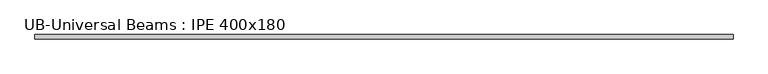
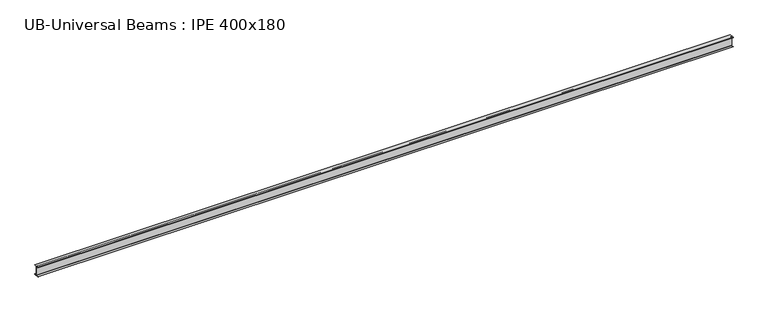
"""IFC4 building model written with IfcOpenShell, lengths in millimetres: beam geometry, UB-Universal Beams : IPE 400x180."""

from ifc_helpers import new_model, si_unit, point, frame, frame_2d, origin, place, context, project, spatial, polyline, circle_curve, trimmed, segment, composite_curve, outline, extrude, source, transform, mapped, element, save


def ub_universal_beams_ipe_400x180_03f0e6ba(model_context):
    return source(origin(), model_context, "Body", "SweptSolid", [
        extrude(outline(composite_curve([segment(polyline([(90.0, -189.8), (90.0, -200.0), (-90.0, -200.0), (-90.0, -189.8), (-11.9, -189.8)]), True, "CONTINUOUS"), segment(trimmed(circle_curve(frame_2d((-11.9, -180.9)), 8.9), [point((-11.9, -189.8))], [point((-3.0, -180.9))], True, "CARTESIAN"), True, "CONTINUOUS"), segment(polyline([(-3.0, -180.9), (-3.0, 180.9)]), True, "CONTINUOUS"), segment(trimmed(circle_curve(frame_2d((-11.9, 180.9)), 8.9), [point((-3.0, 180.9))], [point((-11.9, 189.8))], True, "CARTESIAN"), True, "CONTINUOUS"), segment(polyline([(-11.9, 189.8), (-90.0, 189.8), (-90.0, 200.0), (90.0, 200.0), (90.0, 189.8), (11.9, 189.8)]), True, "CONTINUOUS"), segment(trimmed(circle_curve(frame_2d((11.9, 180.9)), 8.9), [point((11.9, 189.8))], [point((3.0, 180.9))], True, "CARTESIAN"), True, "CONTINUOUS"), segment(polyline([(3.0, 180.9), (3.0, -180.9)]), True, "CONTINUOUS"), segment(trimmed(circle_curve(frame_2d((11.9, -180.9)), 8.9), [point((3.0, -180.9))], [point((11.9, -189.8))], True, "CARTESIAN"), True, "CONTINUOUS"), segment(polyline([(11.9, -189.8), (90.0, -189.8)]), True, "CONTINUOUS")], self_intersect=False)), frame((-13822.25, 0.0, 0.0), z_axis=(1.0, 0.0, 0.0), x_axis=(0.0, 1.0, 0.0)), (0.0, 0.0, 1.0), 27809.6),
    ])


if __name__ == "__main__":
    model = new_model("IFC4")
    model_context = context("Model", 3, world=origin())
    ifc_project = project(units=[si_unit("LENGTHUNIT", "METRE", prefix="MILLI")], contexts=[model_context])
    site = spatial("IfcSite", under=ifc_project)
    building = spatial("IfcBuilding", under=site)
    placement = place(None, origin())
    ub_universal_beams_ipe_400x180_shape = ub_universal_beams_ipe_400x180_03f0e6ba(model_context)
    element("IfcBeam", 1, ObjectType="UB-Universal Beams : IPE 400x180", at=placement, inside=building, context=model_context, shape_type="MappedRepresentation", body=[
        mapped(ub_universal_beams_ipe_400x180_shape, transform((0.0, 0.0, 0.0), x_axis=(1.0, 0.0, 0.0), y_axis=(0.0, 1.0, 0.0), z_axis=(0.0, 0.0, 1.0))),
    ])
    save(model, "model.ifc")
